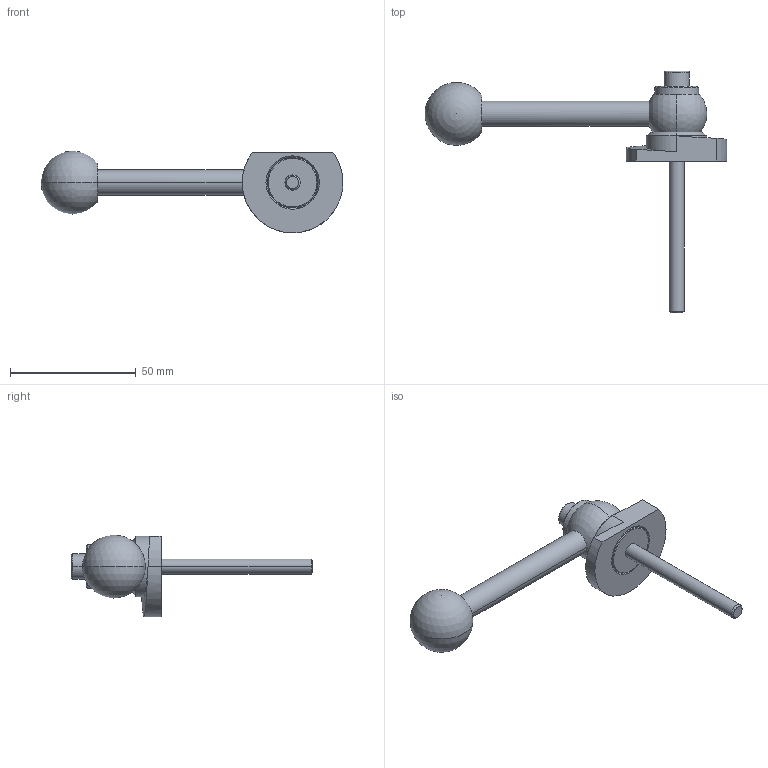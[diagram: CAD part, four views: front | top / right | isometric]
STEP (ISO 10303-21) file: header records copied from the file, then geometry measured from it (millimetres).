
FILE_DESCRIPTION (( 'STEP AP214' ), '1' );
FILE_NAME ('918.1-40-GVS-L-60.step', '2024-05-15T12:59:27', ( '' ), ( '' ), 'SwSTEP 2.0', 'SolidWorks 2022', '' );
FILE_SCHEMA (( 'AUTOMOTIVE_DESIGN' ));
Length unit declared in the file: millimetre
Products named in the file (1): 918.1-40-GVS-L-60
Bounding box: 120 x 96 x 32.5 mm (x, y, z)
Volume: 31204.2 mm3; surface area: 11870 mm2
Topology: 1 solids, 1 shells, 62 faces, 141 edges, 89 vertices
Faces by surface type: plane 20, cylinder 19, cone 14, sphere 4, bspline 3, torus 2
Entity records: 2003 total; most frequent: CARTESIAN_POINT 614, DIRECTION 304, ORIENTED_EDGE 262, EDGE_CURVE 131, AXIS2_PLACEMENT_3D 125, VERTEX_POINT 83, EDGE_LOOP 74, CIRCLE 65
